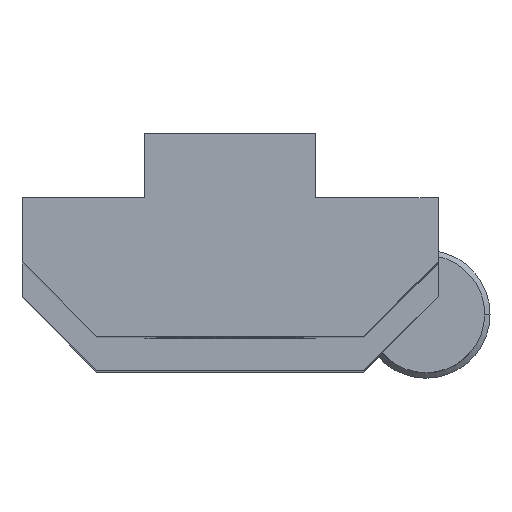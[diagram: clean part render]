
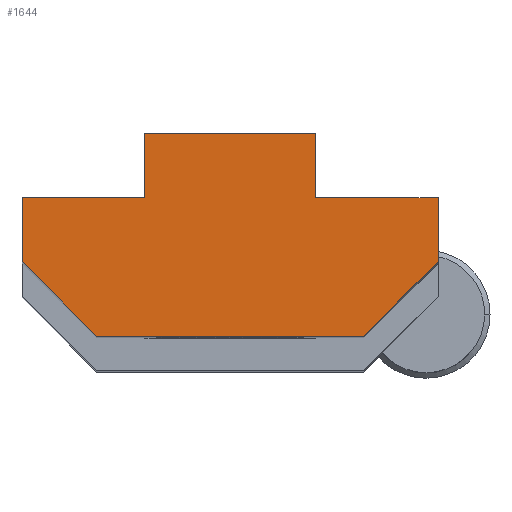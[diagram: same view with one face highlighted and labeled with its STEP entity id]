
A CAD part, top view. The second image highlights one B-rep face of the part: STEP entity #1644.
In plain terms, the highlighted planar face has unit normal (0, 0, 1) as drawn and (0, 0, -1) by its records, which use the part's own axes.
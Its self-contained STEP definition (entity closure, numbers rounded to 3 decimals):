
#16 = DIRECTION ( 'NONE',  ( 0., -1., 0. ) ) ;
#29 = ORIENTED_EDGE ( 'NONE', *, *, #2153, .F. ) ;
#49 = VECTOR ( 'NONE', #133, 1000. ) ;
#61 = VERTEX_POINT ( 'NONE', #1078 ) ;
#90 = CARTESIAN_POINT ( 'NONE',  ( 0., 0., 0. ) ) ;
#94 = CARTESIAN_POINT ( 'NONE',  ( -28.051, 0.771, 0. ) ) ;
#133 = DIRECTION ( 'NONE',  ( -1., 0., 0. ) ) ;
#198 = DIRECTION ( 'NONE',  ( 0., 1., 0. ) ) ;
#203 = CARTESIAN_POINT ( 'NONE',  ( -12.037, -2.714, 0. ) ) ;
#214 = CARTESIAN_POINT ( 'NONE',  ( -22.301, 6.771, 0. ) ) ;
#225 = VERTEX_POINT ( 'NONE', #1500 ) ;
#251 = EDGE_CURVE ( 'NONE', #61, #421, #1877, .T. ) ;
#296 = CARTESIAN_POINT ( 'NONE',  ( -8.551, 0.771, 0. ) ) ;
#301 = PLANE ( 'NONE',  #1766 ) ;
#302 = VERTEX_POINT ( 'NONE', #1783 ) ;
#303 = ORIENTED_EDGE ( 'NONE', *, *, #2215, .F. ) ;
#305 = ORIENTED_EDGE ( 'NONE', *, *, #1282, .F. ) ;
#308 = VERTEX_POINT ( 'NONE', #428 ) ;
#321 = LINE ( 'NONE', #2204, #1543 ) ;
#323 = LINE ( 'NONE', #94, #1912 ) ;
#337 = ORIENTED_EDGE ( 'NONE', *, *, #1276, .F. ) ;
#340 = CARTESIAN_POINT ( 'NONE',  ( -28.051, 3.771, 0. ) ) ;
#364 = CARTESIAN_POINT ( 'NONE',  ( -8.551, 3.771, 0. ) ) ;
#382 = VECTOR ( 'NONE', #198, 1000. ) ;
#421 = VERTEX_POINT ( 'NONE', #1581 ) ;
#426 = EDGE_CURVE ( 'NONE', #843, #61, #501, .T. ) ;
#428 = CARTESIAN_POINT ( 'NONE',  ( -28.051, 3.771, 0. ) ) ;
#471 = LINE ( 'NONE', #1862, #49 ) ;
#501 = LINE ( 'NONE', #1162, #934 ) ;
#535 = VECTOR ( 'NONE', #16, 1000. ) ;
#555 = LINE ( 'NONE', #364, #382 ) ;
#622 = VECTOR ( 'NONE', #1777, 1000. ) ;
#645 = ORIENTED_EDGE ( 'NONE', *, *, #1192, .F. ) ;
#671 = CARTESIAN_POINT ( 'NONE',  ( -8.551, 3.771, 0. ) ) ;
#843 = VERTEX_POINT ( 'NONE', #2076 ) ;
#863 = VECTOR ( 'NONE', #1524, 1000. ) ;
#913 = FACE_OUTER_BOUND ( 'NONE', #2157, .T. ) ;
#931 = ORIENTED_EDGE ( 'NONE', *, *, #2365, .F. ) ;
#934 = VECTOR ( 'NONE', #1649, 1000. ) ;
#975 = LINE ( 'NONE', #2361, #622 ) ;
#1068 = DIRECTION ( 'NONE',  ( -1., 0., 0. ) ) ;
#1073 = DIRECTION ( 'NONE',  ( -1., 0., 0. ) ) ;
#1078 = CARTESIAN_POINT ( 'NONE',  ( -14.301, 6.771, 0. ) ) ;
#1162 = CARTESIAN_POINT ( 'NONE',  ( -14.301, 6.771, 0. ) ) ;
#1192 = EDGE_CURVE ( 'NONE', #2134, #1577, #555, .T. ) ;
#1276 = EDGE_CURVE ( 'NONE', #1743, #1560, #2379, .T. ) ;
#1282 = EDGE_CURVE ( 'NONE', #421, #225, #1325, .T. ) ;
#1289 = LINE ( 'NONE', #340, #2012 ) ;
#1325 = LINE ( 'NONE', #214, #535 ) ;
#1331 = DIRECTION ( 'NONE',  ( -1., 0., 0. ) ) ;
#1452 = ORIENTED_EDGE ( 'NONE', *, *, #251, .F. ) ;
#1500 = CARTESIAN_POINT ( 'NONE',  ( -22.301, 3.771, 0. ) ) ;
#1511 = CARTESIAN_POINT ( 'NONE',  ( -22.301, 6.771, 0. ) ) ;
#1524 = DIRECTION ( 'NONE',  ( 1., 0., 0. ) ) ;
#1543 = VECTOR ( 'NONE', #1073, 1000. ) ;
#1545 = EDGE_CURVE ( 'NONE', #1560, #2134, #975, .T. ) ;
#1560 = VERTEX_POINT ( 'NONE', #2029 ) ;
#1577 = VERTEX_POINT ( 'NONE', #671 ) ;
#1581 = CARTESIAN_POINT ( 'NONE',  ( -22.301, 6.771, 0. ) ) ;
#1644 = ADVANCED_FACE ( 'NONE', ( #913 ), #301, .T. ) ;
#1647 = DIRECTION ( 'NONE',  ( 0., 0., -1. ) ) ;
#1649 = DIRECTION ( 'NONE',  ( 0., 1., 0. ) ) ;
#1660 = ORIENTED_EDGE ( 'NONE', *, *, #1545, .F. ) ;
#1681 = DIRECTION ( 'NONE',  ( 0., -1., 0. ) ) ;
#1715 = ORIENTED_EDGE ( 'NONE', *, *, #426, .F. ) ;
#1743 = VERTEX_POINT ( 'NONE', #2340 ) ;
#1766 = AXIS2_PLACEMENT_3D ( 'NONE', #90, #1647, #1068 ) ;
#1777 = DIRECTION ( 'NONE',  ( 0.707, 0.707, 0. ) ) ;
#1783 = CARTESIAN_POINT ( 'NONE',  ( -28.051, 0.771, 0. ) ) ;
#1793 = VECTOR ( 'NONE', #1331, 1000. ) ;
#1805 = ORIENTED_EDGE ( 'NONE', *, *, #2293, .F. ) ;
#1846 = DIRECTION ( 'NONE',  ( 0.707, -0.707, 0. ) ) ;
#1862 = CARTESIAN_POINT ( 'NONE',  ( -14.301, 3.771, 0. ) ) ;
#1877 = LINE ( 'NONE', #1511, #1793 ) ;
#1912 = VECTOR ( 'NONE', #1846, 1000. ) ;
#2012 = VECTOR ( 'NONE', #1681, 1000. ) ;
#2029 = CARTESIAN_POINT ( 'NONE',  ( -12.037, -2.714, 0. ) ) ;
#2076 = CARTESIAN_POINT ( 'NONE',  ( -14.301, 3.771, 0. ) ) ;
#2134 = VERTEX_POINT ( 'NONE', #296 ) ;
#2153 = EDGE_CURVE ( 'NONE', #302, #1743, #323, .T. ) ;
#2157 = EDGE_LOOP ( 'NONE', ( #305, #1452, #1715, #1805, #645, #1660, #337, #29, #931, #303 ) ) ;
#2204 = CARTESIAN_POINT ( 'NONE',  ( -22.301, 3.771, 0. ) ) ;
#2215 = EDGE_CURVE ( 'NONE', #225, #308, #321, .T. ) ;
#2293 = EDGE_CURVE ( 'NONE', #1577, #843, #471, .T. ) ;
#2340 = CARTESIAN_POINT ( 'NONE',  ( -24.565, -2.714, 0. ) ) ;
#2361 = CARTESIAN_POINT ( 'NONE',  ( -8.551, 0.771, 0. ) ) ;
#2365 = EDGE_CURVE ( 'NONE', #308, #302, #1289, .T. ) ;
#2379 = LINE ( 'NONE', #203, #863 ) ;
